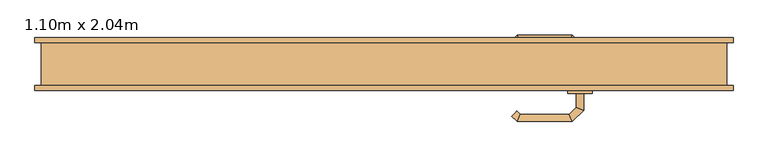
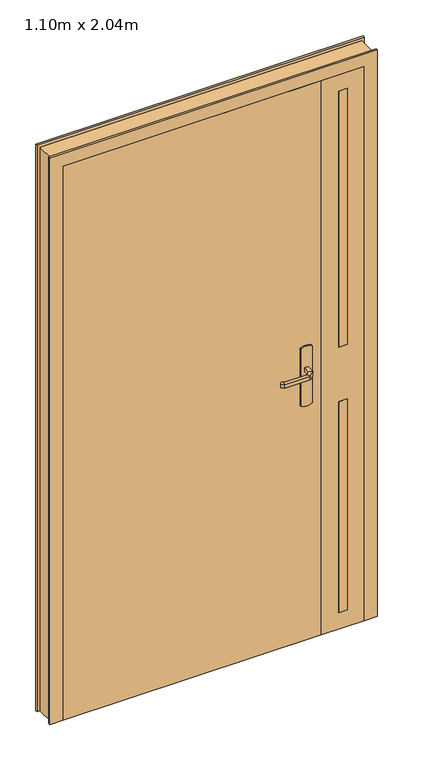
"""IFC4 building model written with IfcOpenShell, lengths in millimetres: door geometry, Tierce  160 : 1.10m x 2.04m."""

from ifc_helpers import new_model, si_unit, point, frame, frame_2d, origin, origin_with_axes, place, context, project, spatial, polyline, circle_curve, ellipse_curve, trimmed, segment, composite_curve, outline, extrude, faceted_brep, source, transform, mapped, element, save
from ifc_brep_helpers import plane_surface, cylinder_surface, advanced_brep


def door_1_10m_x_2_04m_12239842(model_context):
    return source(origin(), model_context, "Body", "SolidModel", [
        advanced_brep(
        [(314.0, 2.0, 993.0), (326.0, 2.0, 993.0), (326.0, 2.0, 1007.0), (314.0, 2.0, 1007.0), (314.0, 24.4852045, 1007.0), (314.0, 24.4852045, 993.0), (326.0, 29.4557673, 1007.0), (326.0, 29.4557673, 993.0), (302.5147186, 35.9704859, 1007.0), (302.5147186, 35.9704859, 993.0), (307.4852814, 47.9704859, 1007.0), (307.4852814, 47.9704859, 993.0), (222.4394977, 35.9704859, 1007.0), (222.4394977, 35.9704859, 993.0), (217.468935, 47.9704859, 1007.0), (217.468935, 47.9704859, 993.0), (217.1257892, 30.6567774, 993.0), (217.1257892, 30.6567774, 1007.0), (208.6405078, 39.1420588, 1007.0), (208.6405078, 39.1420588, 993.0)],
        [
            (0, 1, circle_curve(frame((320.0, 2.0, 1013.0457722), z_axis=(0.0, -1.0, 0.0), x_axis=(1.0, 0.0, 0.0)), 20.9244589)),
            (1, 2),
            (2, 3, circle_curve(frame((320.0, 2.0, 986.9542278), z_axis=(0.0, -1.0, 0.0), x_axis=(1.0, 0.0, 0.0)), 20.9244589)),
            (3, 0),
            (3, 4),
            (4, 5),
            (5, 0),
            (2, 6),
            (6, 4, ellipse_curve(frame((320.0, 26.9704859, 986.9542278), z_axis=(0.38268343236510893, -0.9238795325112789, 0.0), x_axis=(-0.9238795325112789, -0.3826834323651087, 0.0)), 22.6484711, 20.9244589)),
            (1, 7),
            (7, 6),
            (5, 7, ellipse_curve(frame((320.0, 26.9704859, 1013.0457722), z_axis=(0.38268343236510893, -0.9238795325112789, 0.0), x_axis=(-0.9238795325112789, -0.3826834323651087, 0.0)), 22.6484711, 20.9244589)),
            (4, 8),
            (8, 9),
            (9, 5),
            (6, 10),
            (10, 8, ellipse_curve(frame((305.0, 41.9704859, 986.9542278), z_axis=(0.9238795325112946, -0.38268343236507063, 0.0), x_axis=(-0.3826834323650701, -0.9238795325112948, 0.0)), 22.6484711, 20.9244589)),
            (7, 11),
            (11, 10),
            (9, 11, ellipse_curve(frame((305.0, 41.9704859, 1013.0457722), z_axis=(0.9238795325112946, -0.38268343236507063, 0.0), x_axis=(-0.3826834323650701, -0.9238795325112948, 0.0)), 22.6484711, 20.9244589)),
            (8, 12),
            (12, 13),
            (13, 9),
            (10, 14),
            (14, 12, ellipse_curve(frame((219.9542163, 41.9704859, 986.9542278), z_axis=(0.9238795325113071, 0.38268343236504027, 0.0), x_axis=(0.38268343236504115, -0.9238795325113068, 0.0)), 22.6484711, 20.9244589)),
            (11, 15),
            (15, 14),
            (13, 15, ellipse_curve(frame((219.9542163, 41.9704859, 1013.0457722), z_axis=(0.9238795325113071, 0.38268343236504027, 0.0), x_axis=(0.38268343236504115, -0.9238795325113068, 0.0)), 22.6484711, 20.9244589)),
            (16, 17),
            (17, 18, circle_curve(frame((212.8831485, 34.8994181, 986.9542278), z_axis=(-0.7071067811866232, -0.7071067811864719, 0.0), x_axis=(-0.7071067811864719, 0.7071067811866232, 0.0)), 20.9244589)),
            (18, 19),
            (19, 16, circle_curve(frame((212.8831485, 34.8994181, 1013.0457722), z_axis=(-0.7071067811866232, -0.7071067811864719, 0.0), x_axis=(-0.7071067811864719, 0.7071067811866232, 0.0)), 20.9244589)),
            (12, 17),
            (16, 13),
            (14, 18),
            (15, 19),
        ],
        [
            plane_surface(frame((329.2195445, 2.0, 1000.0), z_axis=(0.0, -1.0, 0.0), x_axis=(0.0, 0.0, 1.0))),
            plane_surface(frame((314.0, 2.0, 993.0), z_axis=(-1.0, 0.0, 0.0), x_axis=(0.0, 1.0, 0.0))),
            cylinder_surface(frame((320.0, 2.0, 986.9542278), z_axis=(0.0, -1.0, 0.0), x_axis=(1.0, 0.0, 0.0)), 20.9244589),
            plane_surface(frame((326.0, 2.0, 1007.0), z_axis=(1.0, 0.0, 0.0), x_axis=(0.0, 1.0, 0.0))),
            cylinder_surface(frame((320.0, 2.0, 1013.0457722), z_axis=(0.0, -1.0, 0.0), x_axis=(1.0, 0.0, 0.0)), 20.9244589),
            plane_surface(frame((314.0, 24.4852045, 993.0), z_axis=(-0.707106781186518, -0.707106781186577, 0.0), x_axis=(-0.707106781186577, 0.707106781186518, 0.0))),
            cylinder_surface(frame((320.0, 26.9704859, 986.9542278), z_axis=(0.7071067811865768, -0.7071067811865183, 0.0), x_axis=(0.7071067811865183, 0.7071067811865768, 0.0)), 20.9244589),
            plane_surface(frame((326.0, 29.4557673, 1007.0), z_axis=(0.7071067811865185, 0.7071067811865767, 0.0), x_axis=(-0.7071067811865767, 0.7071067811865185, 0.0))),
            cylinder_surface(frame((320.0, 26.9704859, 1013.0457722), z_axis=(0.7071067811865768, -0.7071067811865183, 0.0), x_axis=(0.7071067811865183, 0.7071067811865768, 0.0)), 20.9244589),
            plane_surface(frame((302.5147186, 35.9704859, 993.0), z_axis=(0.0, -1.0, 0.0), x_axis=(-1.0, 0.0, 0.0))),
            cylinder_surface(frame((305.0, 41.9704859, 986.9542278), z_axis=(1.0, 0.0, 0.0), x_axis=(0.0, 1.0, 0.0)), 20.9244589),
            plane_surface(frame((307.4852814, 47.9704859, 1007.0), z_axis=(0.0, 1.0, 0.0), x_axis=(-1.0, 0.0, 0.0))),
            cylinder_surface(frame((305.0, 41.9704859, 1013.0457722), z_axis=(1.0, 0.0, 0.0), x_axis=(0.0, 1.0, 0.0)), 20.9244589),
            plane_surface(frame((212.8831485, 34.8994181, 990.7804555), z_axis=(-0.7071067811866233, -0.7071067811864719, 0.0), x_axis=(-0.7071067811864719, 0.7071067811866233, 0.0))),
            plane_surface(frame((222.4394977, 35.9704859, 993.0), z_axis=(0.707106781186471, -0.7071067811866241, 0.0), x_axis=(-0.7071067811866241, -0.707106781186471, 0.0))),
            cylinder_surface(frame((219.9542163, 41.9704859, 986.9542278), z_axis=(0.7071067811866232, 0.7071067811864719, 0.0), x_axis=(-0.7071067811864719, 0.7071067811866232, 0.0)), 20.9244589),
            plane_surface(frame((217.468935, 47.9704859, 1007.0), z_axis=(-0.7071067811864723, 0.7071067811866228, 0.0), x_axis=(-0.7071067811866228, -0.7071067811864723, 0.0))),
            cylinder_surface(frame((219.9542163, 41.9704859, 1013.0457722), z_axis=(0.7071067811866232, 0.7071067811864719, 0.0), x_axis=(-0.7071067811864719, 0.7071067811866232, 0.0)), 20.9244589),
        ],
        [
            (0, [[1, 2, 3, 4]]),
            (1, [[5, 6, 7, -4]]),
            (2, [[8, 9, -5, -3]]),
            (3, [[10, 11, -8, -2]]),
            (4, [[-7, 12, -10, -1]]),
            (5, [[13, 14, 15, -6]]),
            (6, [[16, 17, -13, -9]]),
            (7, [[18, 19, -16, -11]]),
            (8, [[-15, 20, -18, -12]]),
            (9, [[21, 22, 23, -14]]),
            (10, [[24, 25, -21, -17]]),
            (11, [[26, 27, -24, -19]]),
            (12, [[-23, 28, -26, -20]]),
            (13, [[29, 30, 31, 32]]),
            (14, [[33, -29, 34, -22]]),
            (15, [[35, -30, -33, -25]]),
            (16, [[36, -31, -35, -27]]),
            (17, [[-34, -32, -36, -28]]),
        ],
    ),
        advanced_brep(
        [(326.0, -48.0, 1007.0), (326.0, -48.0, 993.0), (314.0, -48.0, 993.0), (314.0, -48.0, 1007.0), (314.0, -70.680388, 1007.0), (326.0, -75.6509507, 1007.0), (314.0, -70.680388, 993.0), (326.0, -75.6509507, 993.0), (302.6522273, -82.0281607, 1007.0), (307.62279, -94.0281607, 1007.0), (302.6522273, -82.0281607, 993.0), (307.62279, -94.0281607, 993.0), (222.4666408, -82.0281607, 1007.0), (217.496078, -94.0281607, 1007.0), (222.4666408, -82.0281607, 993.0), (217.496078, -94.0281607, 993.0), (208.6676509, -85.1997336, 1007.0), (217.1529323, -76.7144522, 1007.0), (217.1529323, -76.7144522, 993.0), (208.6676509, -85.1997336, 993.0)],
        [
            (0, 1),
            (1, 2, circle_curve(frame((320.0, -48.0, 1013.0457722), z_axis=(0.0, 1.0, 0.0), x_axis=(-1.0, 0.0, 0.0)), 20.9244589)),
            (2, 3),
            (3, 0, circle_curve(frame((320.0, -48.0, 986.9542278), z_axis=(0.0, 1.0, 0.0), x_axis=(-1.0, 0.0, 0.0)), 20.9244589)),
            (3, 4),
            (4, 5, ellipse_curve(frame((320.0, -73.1656693, 986.9542278), z_axis=(0.3826834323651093, 0.9238795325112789, 0.0), x_axis=(-0.9238795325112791, 0.38268343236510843, 0.0)), 22.6484711, 20.9244589)),
            (5, 0),
            (2, 6),
            (6, 4),
            (1, 7),
            (7, 6, ellipse_curve(frame((320.0, -73.1656693, 1013.0457722), z_axis=(0.3826834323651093, 0.9238795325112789, 0.0), x_axis=(-0.9238795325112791, 0.38268343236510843, 0.0)), 22.6484711, 20.9244589)),
            (5, 7),
            (4, 8),
            (8, 9, ellipse_curve(frame((305.1375086, -88.0281607, 986.9542278), z_axis=(0.9238795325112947, 0.38268343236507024, 0.0), x_axis=(-0.3826834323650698, 0.9238795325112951, 0.0)), 22.6484711, 20.9244589)),
            (9, 5),
            (6, 10),
            (10, 8),
            (7, 11),
            (11, 10, ellipse_curve(frame((305.1375086, -88.0281607, 1013.0457722), z_axis=(0.9238795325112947, 0.38268343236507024, 0.0), x_axis=(-0.3826834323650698, 0.9238795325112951, 0.0)), 22.6484711, 20.9244589)),
            (9, 11),
            (8, 12),
            (12, 13, ellipse_curve(frame((219.9813594, -88.0281607, 986.9542278), z_axis=(0.9238795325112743, -0.3826834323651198, 0.0), x_axis=(0.38268343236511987, 0.9238795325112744, 0.0)), 22.6484711, 20.9244589)),
            (13, 9),
            (10, 14),
            (14, 12),
            (11, 15),
            (15, 14, ellipse_curve(frame((219.9813594, -88.0281607, 1013.0457722), z_axis=(0.9238795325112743, -0.3826834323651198, 0.0), x_axis=(0.38268343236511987, 0.9238795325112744, 0.0)), 22.6484711, 20.9244589)),
            (13, 15),
            (16, 17, circle_curve(frame((212.9102916, -80.9570929, 986.9542278), z_axis=(-0.7071067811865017, 0.7071067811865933, 0.0), x_axis=(0.7071067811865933, 0.7071067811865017, 0.0)), 20.9244589)),
            (17, 18),
            (18, 19, circle_curve(frame((212.9102916, -80.9570929, 1013.0457722), z_axis=(-0.7071067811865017, 0.7071067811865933, 0.0), x_axis=(0.7071067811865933, 0.7071067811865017, 0.0)), 20.9244589)),
            (19, 16),
            (12, 17),
            (16, 13),
            (14, 18),
            (15, 19),
        ],
        [
            plane_surface(frame((329.2195445, -48.0, 1000.0), z_axis=(0.0, 1.0, 0.0), x_axis=(0.0, 0.0, -1.0))),
            cylinder_surface(frame((320.0, -48.0, 986.9542278), z_axis=(0.0, 1.0, 0.0), x_axis=(-1.0, 0.0, 0.0)), 20.9244589),
            plane_surface(frame((314.0, -48.0, 1007.0), z_axis=(-1.0, 0.0, 0.0), x_axis=(0.0, -1.0, 0.0))),
            cylinder_surface(frame((320.0, -48.0, 1013.0457722), z_axis=(0.0, 1.0, 0.0), x_axis=(-1.0, 0.0, 0.0)), 20.9244589),
            plane_surface(frame((326.0, -48.0, 993.0), z_axis=(1.0, 0.0, 0.0), x_axis=(0.0, -1.0, 0.0))),
            cylinder_surface(frame((320.0, -73.1656693, 986.9542278), z_axis=(0.7071067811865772, 0.7071067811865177, 0.0), x_axis=(-0.7071067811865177, 0.7071067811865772, 0.0)), 20.9244589),
            plane_surface(frame((314.0, -70.680388, 1007.0), z_axis=(-0.7071067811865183, 0.7071067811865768, 0.0), x_axis=(-0.7071067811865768, -0.7071067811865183, 0.0))),
            cylinder_surface(frame((320.0, -73.1656693, 1013.0457722), z_axis=(0.7071067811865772, 0.7071067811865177, 0.0), x_axis=(-0.7071067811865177, 0.7071067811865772, 0.0)), 20.9244589),
            plane_surface(frame((326.0, -75.6509507, 993.0), z_axis=(0.707106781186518, -0.707106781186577, 0.0), x_axis=(-0.707106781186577, -0.707106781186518, 0.0))),
            cylinder_surface(frame((305.1375086, -88.0281607, 986.9542278), z_axis=(1.0, 0.0, 0.0), x_axis=(0.0, 1.0, 0.0)), 20.9244589),
            plane_surface(frame((302.6522273, -82.0281607, 1007.0), z_axis=(0.0, 1.0, 0.0), x_axis=(-1.0, 0.0, 0.0))),
            cylinder_surface(frame((305.1375086, -88.0281607, 1013.0457722), z_axis=(1.0, 0.0, 0.0), x_axis=(0.0, 1.0, 0.0)), 20.9244589),
            plane_surface(frame((307.62279, -94.0281607, 993.0), z_axis=(0.0, -1.0, 0.0), x_axis=(-1.0, 0.0, 0.0))),
            plane_surface(frame((212.9102916, -80.9570929, 1009.2195445), z_axis=(-0.7071067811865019, 0.7071067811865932, 0.0), x_axis=(-0.7071067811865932, -0.7071067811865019, 0.0))),
            cylinder_surface(frame((219.9813594, -88.0281607, 986.9542278), z_axis=(0.7071067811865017, -0.7071067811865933, 0.0), x_axis=(0.7071067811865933, 0.7071067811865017, 0.0)), 20.9244589),
            plane_surface(frame((222.4666408, -82.0281607, 1007.0), z_axis=(0.7071067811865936, 0.7071067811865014, 0.0), x_axis=(-0.7071067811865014, 0.7071067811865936, 0.0))),
            cylinder_surface(frame((219.9813594, -88.0281607, 1013.0457722), z_axis=(0.7071067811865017, -0.7071067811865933, 0.0), x_axis=(0.7071067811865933, 0.7071067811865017, 0.0)), 20.9244589),
            plane_surface(frame((217.496078, -94.0281607, 993.0), z_axis=(-0.707106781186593, -0.7071067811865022, 0.0), x_axis=(-0.7071067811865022, 0.707106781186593, 0.0))),
        ],
        [
            (0, [[1, 2, 3, 4]]),
            (1, [[5, 6, 7, -4]]),
            (2, [[8, 9, -5, -3]]),
            (3, [[10, 11, -8, -2]]),
            (4, [[-7, 12, -10, -1]]),
            (5, [[13, 14, 15, -6]]),
            (6, [[16, 17, -13, -9]]),
            (7, [[18, 19, -16, -11]]),
            (8, [[-15, 20, -18, -12]]),
            (9, [[21, 22, 23, -14]]),
            (10, [[24, 25, -21, -17]]),
            (11, [[26, 27, -24, -19]]),
            (12, [[-23, 28, -26, -20]]),
            (13, [[29, 30, 31, 32]]),
            (14, [[33, -29, 34, -22]]),
            (15, [[35, -30, -33, -25]]),
            (16, [[36, -31, -35, -27]]),
            (17, [[-34, -32, -36, -28]]),
        ],
    ),
        extrude(outline(composite_curve([segment(polyline([(1080.0, 300.0), (870.0, 300.0)]), True, "CONTINUOUS"), segment(trimmed(circle_curve(frame_2d((904.6410162, 320.0)), 40.0), [point((870.0, 300.0))], [point((870.0, 340.0))], False, "CARTESIAN"), True, "CONTINUOUS"), segment(polyline([(870.0, 340.0), (1080.0, 340.0)]), True, "CONTINUOUS"), segment(trimmed(circle_curve(frame_2d((1045.3589838, 320.0)), 40.0), [point((1080.0, 340.0))], [point((1080.0, 300.0))], False, "CARTESIAN"), True, "CONTINUOUS")], self_intersect=False)), frame((0.0, -3.0, 0.0), z_axis=(0.0, 1.0, 0.0), x_axis=(0.0, 0.0, 1.0)), (0.0, 0.0, 1.0), 5.0),
        extrude(outline(composite_curve([segment(polyline([(870.0, 340.0), (1080.0, 340.0)]), True, "CONTINUOUS"), segment(trimmed(circle_curve(frame_2d((1045.3589838, 320.0)), 40.0), [point((1080.0, 340.0))], [point((1080.0, 300.0))], False, "CARTESIAN"), True, "CONTINUOUS"), segment(polyline([(1080.0, 300.0), (870.0, 300.0)]), True, "CONTINUOUS"), segment(trimmed(circle_curve(frame_2d((904.6410162, 320.0)), 40.0), [point((870.0, 300.0))], [point((870.0, 340.0))], False, "CARTESIAN"), True, "CONTINUOUS")], self_intersect=False)), frame((0.0, -48.0, 0.0), z_axis=(0.0, 1.0, 0.0), x_axis=(0.0, 0.0, 1.0)), (0.0, 0.0, 1.0), 5.0),
        faceted_brep([(-560.0, -35.0, 0.0), (-560.0, 35.0, 0.0), (-570.0, 35.0, 0.0), (-570.0, 43.0, 0.0), (-510.0, 43.0, 0.0), (-510.0, -3.0, 0.0), (-525.0, -3.0, 0.0), (-525.0, -43.0, 0.0), (-570.0, -43.0, 0.0), (-570.0, -35.0, 0.0), (-560.0, -35.0, 2075.0), (-560.0, 35.0, 2075.0), (560.0, 35.0, 2075.0), (560.0, 35.0, 0.0), (570.0, 35.0, 0.0), (570.0, 35.0, 2085.0), (-570.0, 35.0, 2085.0), (-570.0, 43.0, 2085.0), (570.0, 43.0, 2085.0), (570.0, 43.0, 0.0), (510.0, 43.0, 0.0), (510.0, 43.0, 2025.0), (-510.0, 43.0, 2025.0), (-510.0, -3.0, 2025.0), (510.0, -3.0, 2025.0), (510.0, -3.0, 0.0), (525.0, -3.0, 0.0), (525.0, -3.0, 2040.0), (-525.0, -3.0, 2040.0), (-525.0, -43.0, 2040.0), (525.0, -43.0, 2040.0), (525.0, -43.0, 0.0), (570.0, -43.0, 0.0), (570.0, -43.0, 2085.0), (-570.0, -43.0, 2085.0), (-570.0, -35.0, 2085.0), (570.0, -35.0, 2085.0), (570.0, -35.0, 0.0), (560.0, -35.0, 0.0), (560.0, -35.0, 2075.0)], [[[0, 1, 2, 3, 4, 5, 6, 7, 8, 9]], [[1, 0, 10, 11]], [[2, 1, 11, 12, 13, 14, 15, 16]], [[3, 2, 16, 17]], [[4, 3, 17, 18, 19, 20, 21, 22]], [[5, 4, 22, 23]], [[6, 5, 23, 24, 25, 26, 27, 28]], [[7, 6, 28, 29]], [[8, 7, 29, 30, 31, 32, 33, 34]], [[9, 8, 34, 35]], [[0, 9, 35, 36, 37, 38, 39, 10]], [[12, 39, 38, 13]], [[38, 37, 32, 31, 26, 25, 20, 19, 14, 13]], [[18, 15, 14, 19]], [[24, 21, 20, 25]], [[30, 27, 26, 31]], [[36, 33, 32, 37]], [[11, 10, 39, 12]], [[17, 16, 15, 18]], [[23, 22, 21, 24]], [[29, 28, 27, 30]], [[35, 34, 33, 36]]]),
        extrude(outline(polyline([(465.0, -43.0), (435.0, -43.0), (435.0, -3.0), (465.0, -3.0), (465.0, -43.0)])), frame((0.0, 0.0, 60.0), z_axis=(0.0, 0.0, 1.0), x_axis=(1.0, 0.0, 0.0)), (0.0, 0.0, 1.0), 777.5),
        extrude(outline(polyline([(465.0, -43.0), (435.0, -43.0), (435.0, -3.0), (465.0, -3.0), (465.0, -43.0)])), frame((0.0, 0.0, 1037.5), z_axis=(0.0, 0.0, 1.0), x_axis=(1.0, 0.0, 0.0)), (0.0, 0.0, 1.0), 942.5),
        extrude(outline(polyline([(2040.0, 525.0), (2040.0, 375.0), (0.0, 375.0), (0.0, 525.0), (2040.0, 525.0)]), holes=[polyline([(837.5, 435.0), (837.5, 465.0), (60.0, 465.0), (60.0, 435.0), (837.5, 435.0)]), polyline([(1037.5, 465.0), (1037.5, 435.0), (1980.0, 435.0), (1980.0, 465.0), (1037.5, 465.0)])]), frame((0.0, -43.0, 0.0), z_axis=(0.0, 1.0, 0.0), x_axis=(0.0, 0.0, 1.0)), (0.0, 0.0, 1.0), 40.0),
        extrude(outline(polyline([(375.0, -43.0), (-525.0, -43.0), (-525.0, -3.0), (375.0, -3.0), (375.0, -43.0)])), origin_with_axes(), (0.0, 0.0, 1.0), 2040.0),
    ])


if __name__ == "__main__":
    model = new_model("IFC4")
    model_context = context("Model", 3, world=origin())
    ifc_project = project(units=[si_unit("LENGTHUNIT", "METRE", prefix="MILLI")], contexts=[model_context])
    site = spatial("IfcSite", under=ifc_project)
    building = spatial("IfcBuilding", under=site)
    placement = place(None, origin())
    door_1_10m_x_2_04m_shape = door_1_10m_x_2_04m_12239842(model_context)
    element("IfcDoor", 1, ObjectType="Tierce  160 : 1.10m x 2.04m", at=placement, inside=building, context=model_context, shape_type="MappedRepresentation", body=[
        mapped(door_1_10m_x_2_04m_shape, transform((0.0, 0.0, 0.0), x_axis=(1.0, 0.0, 0.0), y_axis=(0.0, 1.0, 0.0), z_axis=(0.0, 0.0, 1.0))),
    ])
    save(model, "model.ifc")
